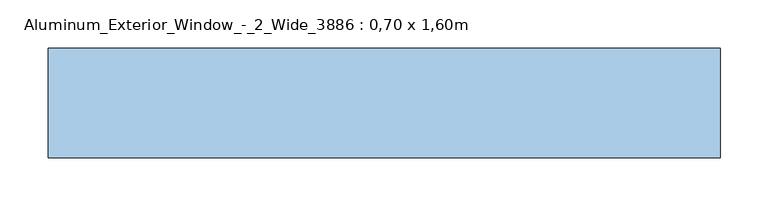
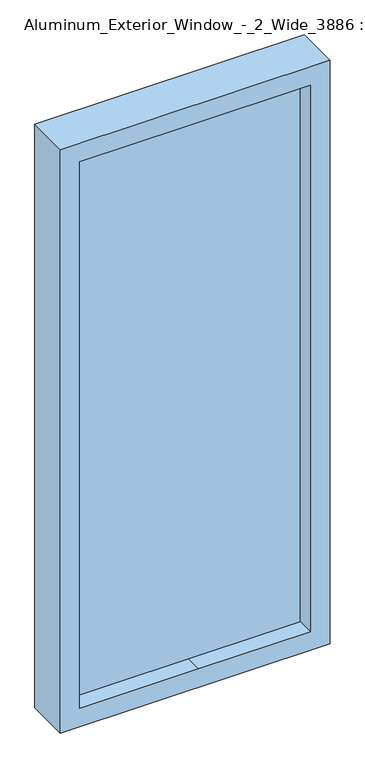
"""IFC4 building model written with IfcOpenShell, lengths in millimetres: window geometry, Aluminum_Exterior_Window_-_2_Wide_3886 : 0,70 x 1,60m."""

from ifc_helpers import new_model, si_unit, frame, origin, place, context, project, spatial, polyline, outline, extrude, source, transform, mapped, element, save


def aluminum_exterior_window_2_wide_3886_0_70_x_1_60m_6a6ee500(model_context):
    return source(origin(), model_context, "Body", "SweptSolid", [
        extrude(outline(polyline([(2616.0, -1371.6), (1016.0, -1371.6), (1016.0, -671.6), (2616.0, -671.6), (2616.0, -1371.6)]), holes=[polyline([(2565.2, -1047.0), (2565.2, -722.4), (1066.8, -722.4), (1066.8, -1013.8808837), (1066.8, -1320.8), (2565.2, -1320.8), (2565.2, -1047.0)])]), frame((0.0, -38.1424754, 0.0), z_axis=(0.0, 1.0, 0.0), x_axis=(0.0, 0.0, 1.0)), (0.0, 0.0, 1.0), 114.3),
        extrude(outline(polyline([(2565.2, -1047.0), (2565.2, -1320.8), (1066.8, -1320.8), (1066.8, -1020.891469), (1066.8, -722.4), (2565.2, -722.4), (2565.2, -1047.0)])), frame((0.0, 6.3075246, 0.0), z_axis=(0.0, 1.0, 0.0), x_axis=(0.0, 0.0, 1.0)), (0.0, 0.0, 1.0), 25.4),
    ])


if __name__ == "__main__":
    model = new_model("IFC4")
    model_context = context("Model", 3, world=origin())
    ifc_project = project(units=[si_unit("LENGTHUNIT", "METRE", prefix="MILLI")], contexts=[model_context])
    site = spatial("IfcSite", under=ifc_project)
    building = spatial("IfcBuilding", under=site)
    placement = place(None, origin())
    aluminum_exterior_window_2_wide_3886_0_70_x_1_60m_shape = aluminum_exterior_window_2_wide_3886_0_70_x_1_60m_6a6ee500(model_context)
    element("IfcWindow", 1, ObjectType="Aluminum_Exterior_Window_-_2_Wide_3886 : 0,70 x 1,60m", at=placement, inside=building, context=model_context, shape_type="MappedRepresentation", body=[
        mapped(aluminum_exterior_window_2_wide_3886_0_70_x_1_60m_shape, transform((0.0, 0.0, 0.0), x_axis=(1.0, 0.0, 0.0), y_axis=(0.0, 1.0, 0.0), z_axis=(0.0, 0.0, 1.0))),
    ])
    save(model, "model.ifc")
